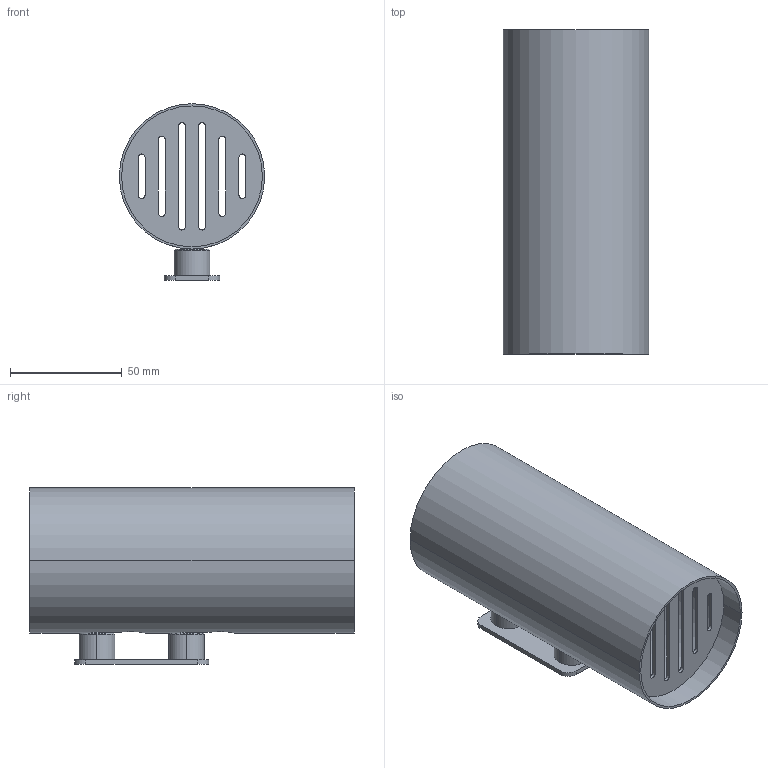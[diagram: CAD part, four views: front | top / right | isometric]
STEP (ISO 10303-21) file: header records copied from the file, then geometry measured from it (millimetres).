
FILE_DESCRIPTION((''),'2;1');
FILE_NAME('20231003-0002_ASM','2023-10-03T11:27:35',('Administrator'),(''),'CREO PARAMETRIC BY PTC INC, 2019471','CREO PARAMETRIC BY PTC INC, 2019471','');
FILE_SCHEMA(('CONFIG_CONTROL_DESIGN'));
Length unit declared in the file: millimetre
Products named in the file (5): 20230516-01AC; 20211127-5709; 1018000; 20230211-02; 20231003-0002_ASM
Assembly tree (6 placements, depth 2):
  20231003-0002_ASM
    20230516-01AC
    20211127-5709  x2
    1018000  x2
    20230211-02
Bounding box: 65 x 145 x 79 mm (x, y, z)
Volume: 40168.7 mm3; surface area: 71149.3 mm2
Topology: 6 solids, 8 shells, 224 faces, 590 edges, 382 vertices
Faces by surface type: cylinder 130, plane 38, cone 24, bspline 24, torus 8
Entity records: 10318 total; most frequent: CARTESIAN_POINT 6821, ORIENTED_EDGE 742, DIRECTION 633, EDGE_CURVE 373, VERTEX_POINT 243, AXIS2_PLACEMENT_3D 235, EDGE_LOOP 164, VECTOR 163
